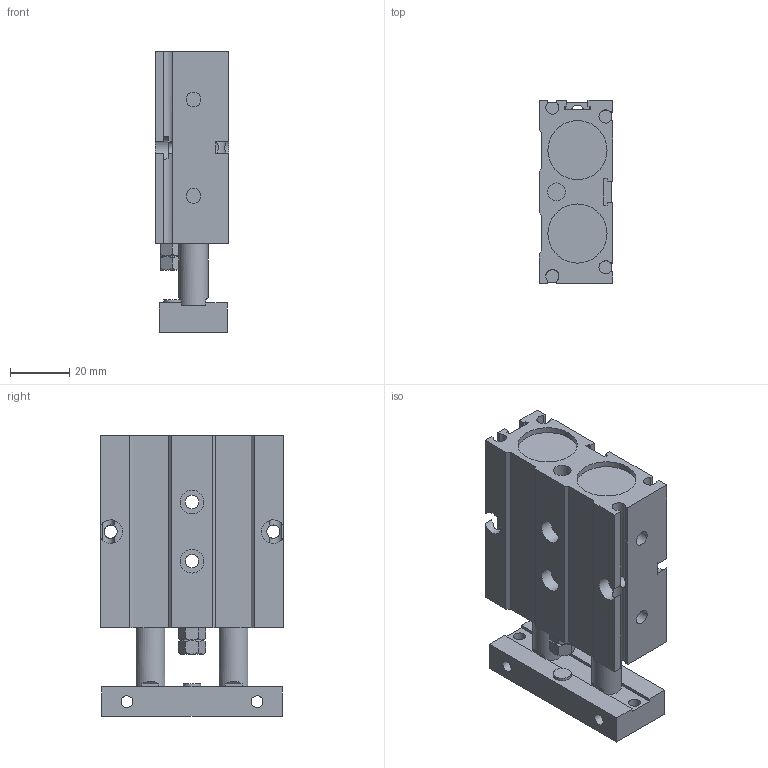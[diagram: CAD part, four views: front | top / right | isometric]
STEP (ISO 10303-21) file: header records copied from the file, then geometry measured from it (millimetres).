
FILE_DESCRIPTION((''),'2;1');
FILE_NAME('I:\3D電子目錄\氣缸\TD\TD20\TD20\TD20X10.stp','2007-08-06T09:46:25',('Administrator'),(''),'Autodesk Inventor 2008','Autodesk Inventor 2008','');
FILE_SCHEMA(('AUTOMOTIVE_DESIGN { 1 0 10303 214 1 1 1 1 }'));
Length unit declared in the file: millimetre
Products named in the file (1): TD20X10
Bounding box: 25 x 62 x 95 mm (x, y, z)
Volume: 102441.5 mm3; surface area: 27227 mm2
Topology: 1 solids, 3 shells, 193 faces, 497 edges, 325 vertices
Faces by surface type: plane 134, cylinder 46, cone 7, bspline 4, torus 2
Full cylindrical faces by diameter (mm): 4 x4, 4.5 x4, 5 x2, 6 x2, 7 x2, 8 x6, 9 x2, 10 x2, 20 x4
Entity records: 6028 total; most frequent: CARTESIAN_POINT 1441, DIRECTION 911, ORIENTED_EDGE 908, EDGE_CURVE 454, VERTEX_POINT 319, VECTOR 307, LINE 307, AXIS2_PLACEMENT_3D 302
